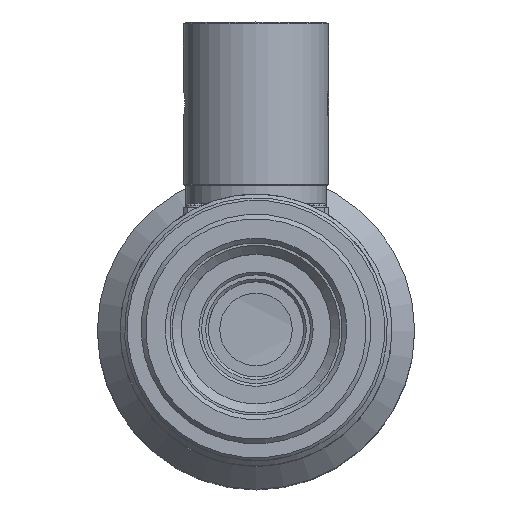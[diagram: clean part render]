
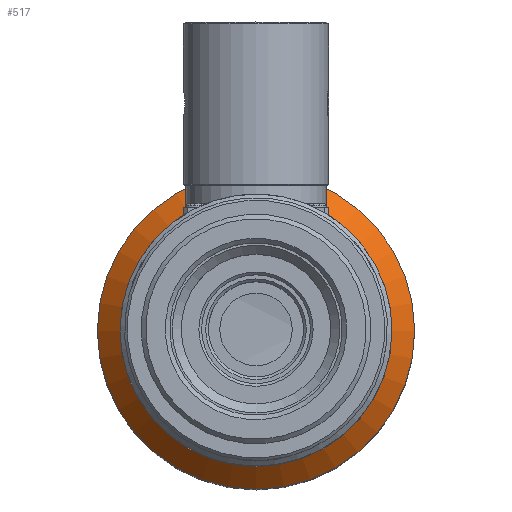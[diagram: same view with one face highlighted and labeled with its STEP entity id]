
A CAD part, top view. The second image highlights one B-rep face of the part: STEP entity #517.
In plain terms, the highlighted conical face has half-angle 45 degrees and reference radius 15 mm.
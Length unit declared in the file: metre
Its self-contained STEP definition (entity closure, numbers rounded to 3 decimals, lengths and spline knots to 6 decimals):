
#517=ADVANCED_FACE('NONE',(#1364,#1365),#1366,.T.);
#1364=FACE_OUTER_BOUND('',#2711,.T.);
#1365=FACE_BOUND('',#2712,.T.);
#1366=CONICAL_SURFACE('',#2713,0.015,0.785);
#2711=EDGE_LOOP('',(#4346));
#2712=EDGE_LOOP('',(#4347));
#2713=AXIS2_PLACEMENT_3D('',#4348,#4349,#4350);
#4346=ORIENTED_EDGE('',*,*,#6932,.F.);
#4347=ORIENTED_EDGE('',*,*,#6933,.T.);
#4348=CARTESIAN_POINT('',(0.,0.0,-0.10139));
#4349=DIRECTION('',(0.,-0.0,-1.0));
#4350=DIRECTION('',(-1.0,0.0,0.));
#6932=EDGE_CURVE('NONE',#8068,#8068,#8069,.T.);
#6933=EDGE_CURVE('NONE',#8070,#8070,#8071,.T.);
#8068=VERTEX_POINT('',#9711);
#8069=CIRCLE('',#9712,0.0175);
#8070=VERTEX_POINT('',#9713);
#8071=CIRCLE('',#9714,0.015);
#9711=CARTESIAN_POINT('',(-0.0175,0.0,-0.10389));
#9712=AXIS2_PLACEMENT_3D('',#12046,#12047,#12048);
#9713=CARTESIAN_POINT('',(-0.015,0.0,-0.10139));
#9714=AXIS2_PLACEMENT_3D('',#12049,#12050,#12051);
#12046=CARTESIAN_POINT('',(0.,0.0,-0.10389));
#12047=DIRECTION('',(0.,0.0,-1.0));
#12048=DIRECTION('',(-1.0,0.0,0.));
#12049=CARTESIAN_POINT('',(0.,0.0,-0.10139));
#12050=DIRECTION('',(0.,0.0,-1.0));
#12051=DIRECTION('',(-1.0,0.0,0.));
